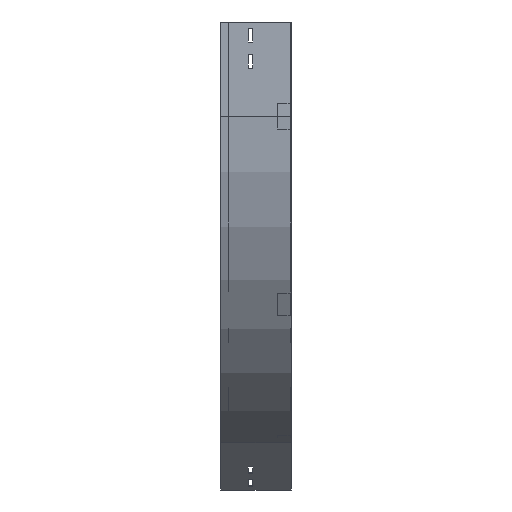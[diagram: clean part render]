
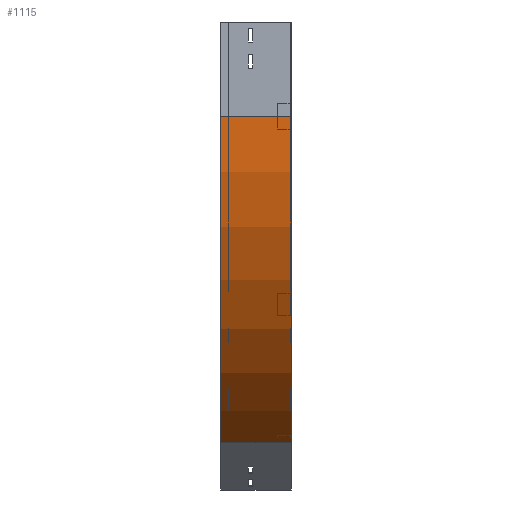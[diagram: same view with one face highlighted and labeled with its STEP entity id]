
A CAD part, left-side view. The second image highlights one B-rep face of the part: STEP entity #1115.
In plain terms, the highlighted cylindrical face has radius 600 mm (diameter 1200 mm), a partial arc.
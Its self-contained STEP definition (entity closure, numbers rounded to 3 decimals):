
#70 = ORIENTED_EDGE ( 'NONE', *, *, #831, .T. ) ;
#130 = EDGE_CURVE ( 'NONE', #2839, #3781, #1769, .T. ) ;
#205 = DIRECTION ( 'NONE',  ( 0., -1., 0. ) ) ;
#267 = LINE ( 'NONE', #2640, #1065 ) ;
#292 = CARTESIAN_POINT ( 'NONE',  ( 0., 0., -150. ) ) ;
#619 = DIRECTION ( 'NONE',  ( 0., -1., 0. ) ) ;
#641 = VERTEX_POINT ( 'NONE', #2523 ) ;
#796 = CARTESIAN_POINT ( 'NONE',  ( 600., 0., -150. ) ) ;
#816 = FACE_OUTER_BOUND ( 'NONE', #1342, .T. ) ;
#827 = CIRCLE ( 'NONE', #1873, 600. ) ;
#831 = EDGE_CURVE ( 'NONE', #2905, #641, #267, .T. ) ;
#936 = AXIS2_PLACEMENT_3D ( 'NONE', #796, #2299, #1111 ) ;
#1065 = VECTOR ( 'NONE', #205, 1000. ) ;
#1089 = CARTESIAN_POINT ( 'NONE',  ( 0., 0., -150. ) ) ;
#1111 = DIRECTION ( 'NONE',  ( 0., 0., -1. ) ) ;
#1115 = ADVANCED_FACE ( 'NONE', ( #816 ), #3778, .T. ) ;
#1130 = EDGE_CURVE ( 'NONE', #2839, #2905, #3173, .T. ) ;
#1131 = AXIS2_PLACEMENT_3D ( 'NONE', #2940, #2611, #3167 ) ;
#1342 = EDGE_LOOP ( 'NONE', ( #2327, #3755, #2851, #70 ) ) ;
#1769 = LINE ( 'NONE', #292, #2466 ) ;
#1829 = DIRECTION ( 'NONE',  ( -1., 0., 0. ) ) ;
#1873 = AXIS2_PLACEMENT_3D ( 'NONE', #2980, #619, #1829 ) ;
#2107 = EDGE_CURVE ( 'NONE', #3781, #641, #827, .T. ) ;
#2299 = DIRECTION ( 'NONE',  ( 0., -1., 0. ) ) ;
#2327 = ORIENTED_EDGE ( 'NONE', *, *, #2107, .F. ) ;
#2380 = CARTESIAN_POINT ( 'NONE',  ( 0., 112.5, -150. ) ) ;
#2466 = VECTOR ( 'NONE', #2667, 1000. ) ;
#2523 = CARTESIAN_POINT ( 'NONE',  ( 300., 0., -669.615 ) ) ;
#2611 = DIRECTION ( 'NONE',  ( 0., -1., 0. ) ) ;
#2640 = CARTESIAN_POINT ( 'NONE',  ( 300., 0., -669.615 ) ) ;
#2667 = DIRECTION ( 'NONE',  ( 0., -1., 0. ) ) ;
#2839 = VERTEX_POINT ( 'NONE', #2380 ) ;
#2851 = ORIENTED_EDGE ( 'NONE', *, *, #1130, .T. ) ;
#2905 = VERTEX_POINT ( 'NONE', #3426 ) ;
#2940 = CARTESIAN_POINT ( 'NONE',  ( 600., 112.5, -150. ) ) ;
#2980 = CARTESIAN_POINT ( 'NONE',  ( 600., 0., -150. ) ) ;
#3167 = DIRECTION ( 'NONE',  ( -1., 0., 0. ) ) ;
#3173 = CIRCLE ( 'NONE', #1131, 600. ) ;
#3426 = CARTESIAN_POINT ( 'NONE',  ( 300., 112.5, -669.615 ) ) ;
#3755 = ORIENTED_EDGE ( 'NONE', *, *, #130, .F. ) ;
#3778 = CYLINDRICAL_SURFACE ( 'NONE', #936, 600. ) ;
#3781 = VERTEX_POINT ( 'NONE', #1089 ) ;
